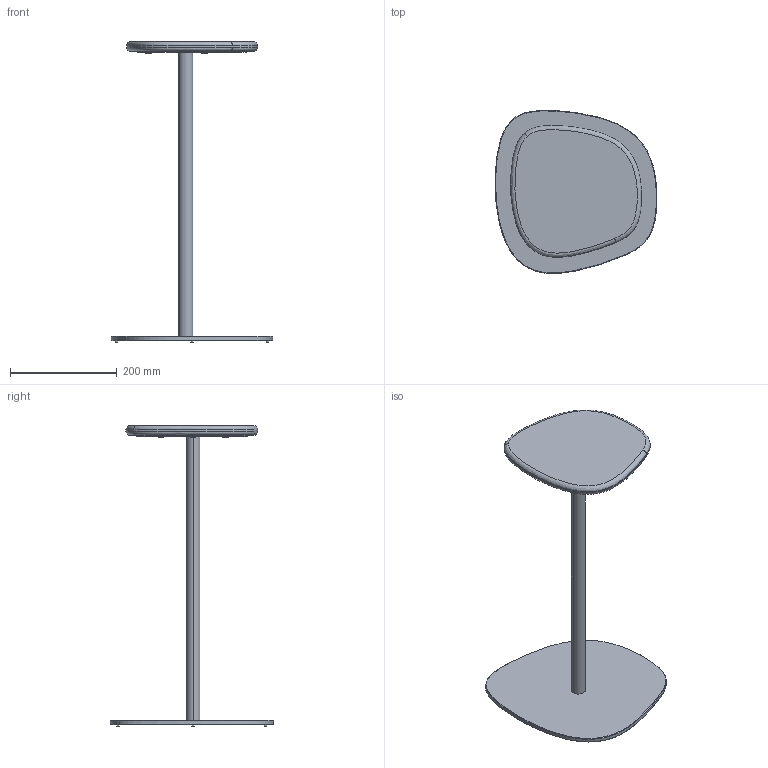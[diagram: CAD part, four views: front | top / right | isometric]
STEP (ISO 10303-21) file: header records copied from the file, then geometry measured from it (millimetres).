
FILE_DESCRIPTION(/* description */ (''),/* implementation_level */ '2;1');
FILE_NAME(/* name */ 'Plyo Accent Table_3D',/* time_stamp */ '2026-02-02T13:21:41+01:00',/* author */ (''),/* organization */ (''),/* preprocessor_version */ 'ST-DEVELOPER v19.2',/* originating_system */ 'Rhino 8.27',/* authorisation */ '');
FILE_SCHEMA (('CONFIG_CONTROL_DESIGN'));
Length unit declared in the file: millimetre
Products named in the file (1): Document
Bounding box: 303.37 x 305.4 x 563 mm (x, y, z)
Volume: 1652559.5 mm3; surface area: 428389.5 mm2
Topology: 25 solids, 25 shells, 507 faces, 1209 edges, 750 vertices
Faces by surface type: cylinder 193, plane 191, bspline 123
Entity records: 30246 total; most frequent: CARTESIAN_POINT 21127, ORIENTED_EDGE 2406, EDGE_CURVE 1203, B_SPLINE_CURVE_WITH_KNOTS 941, VERTEX_POINT 750, DIRECTION 746, AXIS2_PLACEMENT_3D 564, EDGE_LOOP 523
